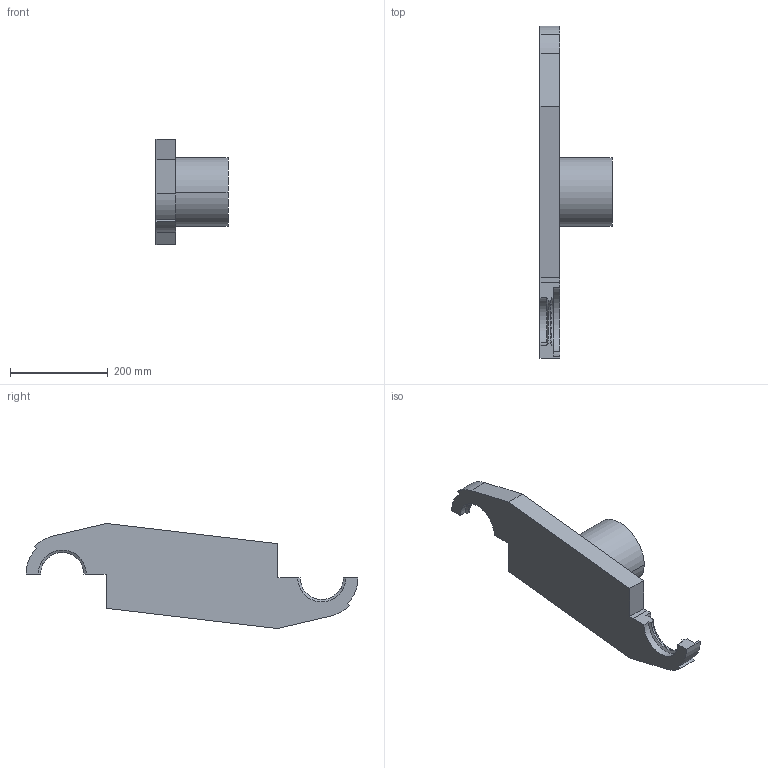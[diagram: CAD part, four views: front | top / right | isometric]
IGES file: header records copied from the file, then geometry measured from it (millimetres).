
Start section: START RECORD GO HERE.
Global section: file name: pince-A-X.igs; native system: IBM CATIA IGES - CATIA Version 5 Release 10 ; preprocessor: CATIA Version 5 Release 10 ; date: 20030711.094400; units: millimetre
Bounding box: 147.1 x 678 x 214.78 mm (x, y, z)
Surface area: 276674.2 mm2 (no closed solid volume)
Topology: 0 solids, 0 shells, 49 faces, 260 edges, 260 vertices
Faces by surface type: revolution 30, plane 19
